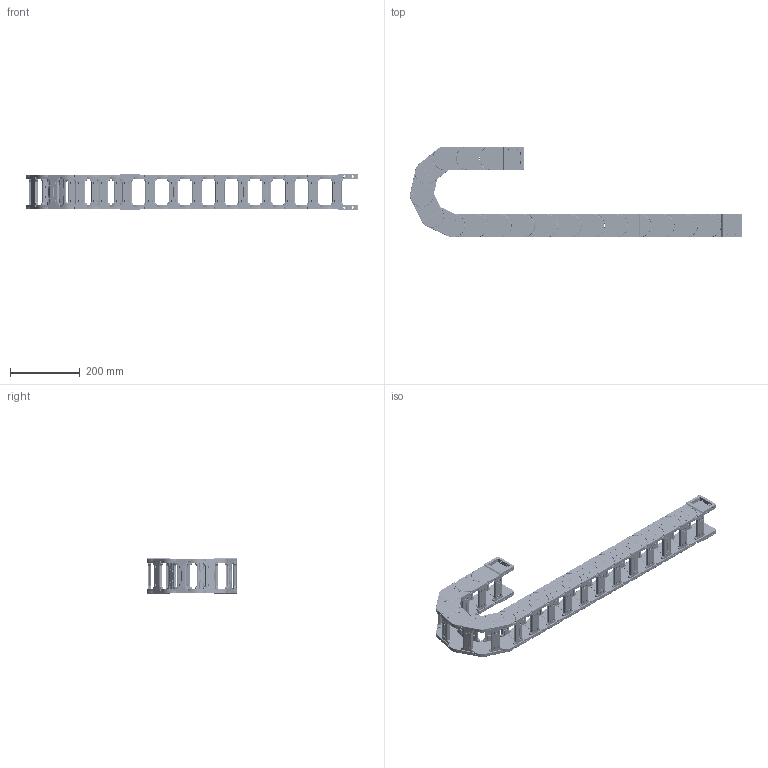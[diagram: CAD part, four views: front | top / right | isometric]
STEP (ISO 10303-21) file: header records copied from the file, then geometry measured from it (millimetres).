
FILE_DESCRIPTION (( 'STEP AP214' ), '1' );
FILE_NAME ('J45Q.1.75S-3D賦凳芞.STEP', '2019-01-09T09:01:17', ( 'Sky123.Org' ), ( 'Sky123.Org' ), 'SwSTEP 2.0', 'SolidWorks 2017', '' );
FILE_SCHEMA (( 'AUTOMOTIVE_DESIGN' ));
Length unit declared in the file: millimetre
Products named in the file (10): 45-臏簽1; 45-崝Ч翋极2; 5-N45X75-源諉俋; 5-N45X75-源諉囀; 45-崝Ч翋极1-R250; J45.1結え; 45-N源諉芛囀; 45-N源諉芛俋; J45Q.1.75S-3D賦凳芞; 5-N45X100-1
Assembly tree (55 placements, depth 3):
  J45Q.1.75S-3D賦凳芞
    5-N45X100-1  x17
      45-崝Ч翋极1-R250
      45-崝Ч翋极2
      J45.1結え
    5-N45X75-源諉囀
      45-N源諉芛囀  x2
      J45.1結え  x2
      45-臏簽1  x12
    5-N45X75-源諉俋
      45-N源諉芛俋  x2
      J45.1結え  x2
      45-臏簽1  x12
Bounding box: 954.91 x 261 x 104 mm (x, y, z)
Volume: 2466555 mm3; surface area: 1111854 mm2
Topology: 100 solids, 100 shells, 20080 faces, 51658 edges, 31520 vertices
Faces by surface type: plane 7348, cylinder 6440, bspline 3788, torus 1508, sphere 768, cone 228
Entity records: 33152 total; most frequent: CARTESIAN_POINT 10875, ORIENTED_EDGE 4608, DIRECTION 4494, EDGE_CURVE 2304, AXIS2_PLACEMENT_3D 1615, VERTEX_POINT 1438, LINE 1264, VECTOR 1264
